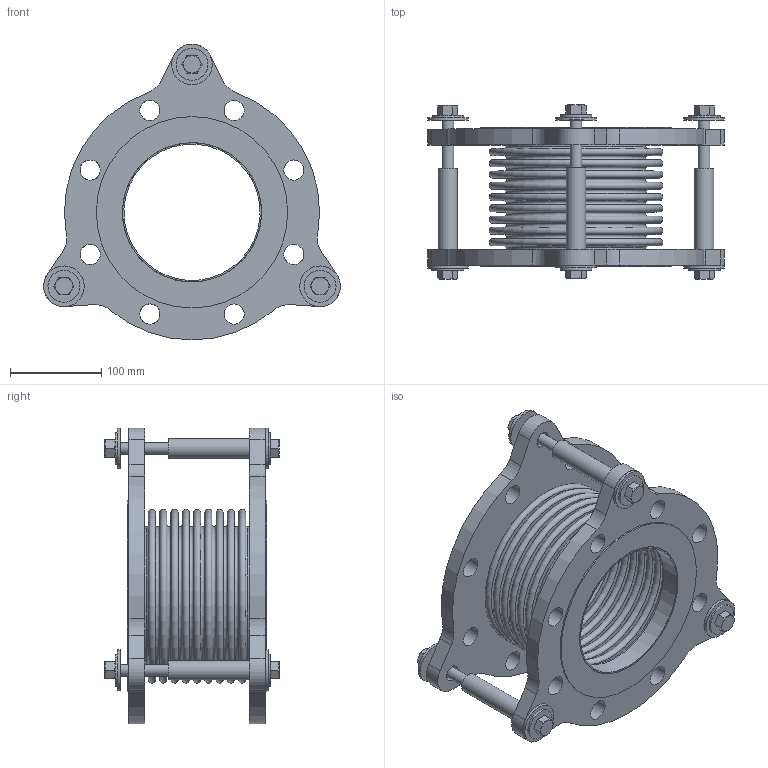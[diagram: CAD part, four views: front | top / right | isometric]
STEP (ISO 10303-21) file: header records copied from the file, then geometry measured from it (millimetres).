
FILE_DESCRIPTION(/* description */ (''),/* implementation_level */ '2;1');
FILE_NAME(/* name */ 'C:\001_Work\Designs\RFB\RFB-6x6.stp',/* time_stamp */ '2016-04-29T08:20:52-04:00',/* author */ ('rramoutar'),/* organization */ ('Mason Industries Inc.'),/* preprocessor_version */ 'ST-DEVELOPER v15.6',/* originating_system */ 'Autodesk Inventor 2015',/* authorisation */ '');
FILE_SCHEMA (('CONFIG_CONTROL_DESIGN'));
Length unit declared in the file: inch
Products named in the file (1): 6in_RFB_150FLANGE
Bounding box: 324.89 x 190.51 x 323.82 mm (x, y, z)
Volume: 2203804.6 mm3; surface area: 834744.4 mm2
Topology: 24 solids, 24 shells, 325 faces, 675 edges, 439 vertices
Faces by surface type: plane 137, cylinder 90, cone 60, torus 38
Full cylindrical faces by diameter (mm): 10.592 x3, 12.7 x9, 14.287 x6, 15.799 x3, 17.462 x6, 21.336 x3, 22.225 x16, 34.925 x6, 44.45 x6, 149.225 x2, 152.4 x4, 209.55 x2
Entity records: 8323 total; most frequent: CARTESIAN_POINT 1484, DIRECTION 1390, ORIENTED_EDGE 1068, AXIS2_PLACEMENT_3D 638, EDGE_LOOP 562, EDGE_CURVE 534, VERTEX_POINT 408, STYLED_ITEM 349
